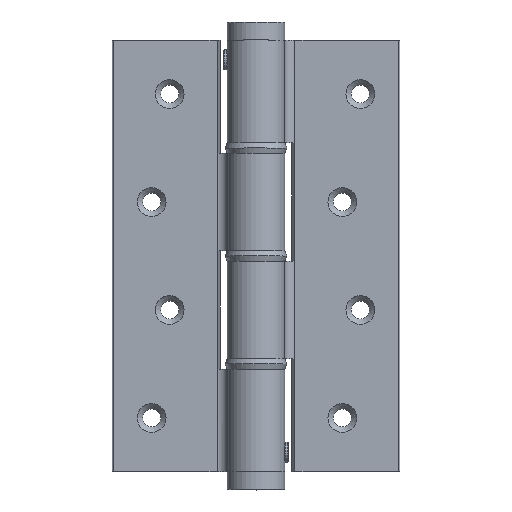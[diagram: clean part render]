
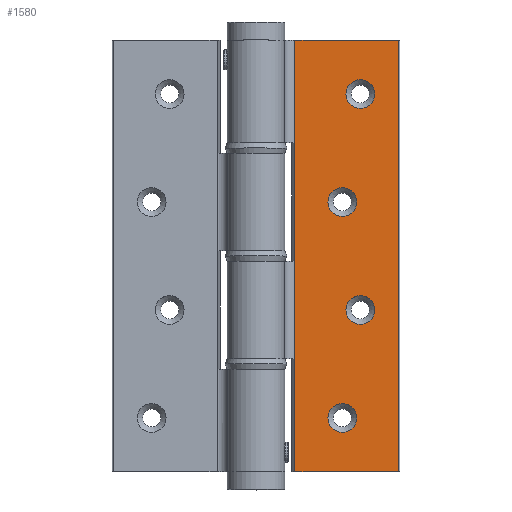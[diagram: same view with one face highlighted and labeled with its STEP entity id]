
A CAD part, top view. The second image highlights one B-rep face of the part: STEP entity #1580.
In plain terms, the highlighted planar face has unit normal (0, 0, 1).
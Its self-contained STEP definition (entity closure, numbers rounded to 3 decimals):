
#108=PLANE('',#1737);
#151=CIRCLE('',#1738,4.);
#152=CIRCLE('',#1739,4.);
#153=CIRCLE('',#1740,4.);
#154=CIRCLE('',#1741,4.);
#228=LINE('',#2486,#310);
#233=LINE('',#2507,#315);
#234=LINE('',#2510,#316);
#235=LINE('',#2511,#317);
#310=VECTOR('',#1951,1000.);
#315=VECTOR('',#1968,1000.);
#316=VECTOR('',#1969,1000.);
#317=VECTOR('',#1970,1000.);
#404=ORIENTED_EDGE('',*,*,#824,.T.);
#405=ORIENTED_EDGE('',*,*,#825,.T.);
#406=ORIENTED_EDGE('',*,*,#814,.F.);
#407=ORIENTED_EDGE('',*,*,#826,.F.);
#408=ORIENTED_EDGE('',*,*,#827,.T.);
#409=ORIENTED_EDGE('',*,*,#828,.T.);
#410=ORIENTED_EDGE('',*,*,#829,.T.);
#411=ORIENTED_EDGE('',*,*,#830,.T.);
#814=EDGE_CURVE('',#1024,#1025,#228,.T.);
#824=EDGE_CURVE('',#1034,#1035,#233,.T.);
#825=EDGE_CURVE('',#1035,#1025,#234,.T.);
#826=EDGE_CURVE('',#1034,#1024,#235,.T.);
#827=EDGE_CURVE('',#1036,#1036,#151,.T.);
#828=EDGE_CURVE('',#1037,#1037,#152,.T.);
#829=EDGE_CURVE('',#1038,#1038,#153,.T.);
#830=EDGE_CURVE('',#1039,#1039,#154,.T.);
#1024=VERTEX_POINT('',#2487);
#1025=VERTEX_POINT('',#2488);
#1034=VERTEX_POINT('',#2508);
#1035=VERTEX_POINT('',#2509);
#1036=VERTEX_POINT('',#2513);
#1037=VERTEX_POINT('',#2515);
#1038=VERTEX_POINT('',#2517);
#1039=VERTEX_POINT('',#2519);
#1196=EDGE_LOOP('',(#404,#405,#406,#407));
#1197=EDGE_LOOP('',(#408));
#1198=EDGE_LOOP('',(#409));
#1199=EDGE_LOOP('',(#410));
#1200=EDGE_LOOP('',(#411));
#1365=FACE_BOUND('',#1196,.T.);
#1366=FACE_BOUND('',#1197,.T.);
#1367=FACE_BOUND('',#1198,.T.);
#1368=FACE_BOUND('',#1199,.T.);
#1369=FACE_BOUND('',#1200,.T.);
#1580=ADVANCED_FACE('',(#1365,#1366,#1367,#1368,#1369),#108,.T.);
#1737=AXIS2_PLACEMENT_3D('',#2506,#1966,#1967);
#1738=AXIS2_PLACEMENT_3D('',#2512,#1971,#1972);
#1739=AXIS2_PLACEMENT_3D('',#2514,#1973,#1974);
#1740=AXIS2_PLACEMENT_3D('',#2516,#1975,#1976);
#1741=AXIS2_PLACEMENT_3D('',#2518,#1977,#1978);
#1951=DIRECTION('',(0.,1.,0.));
#1966=DIRECTION('',(0.,0.,1.));
#1967=DIRECTION('',(1.,0.,0.));
#1968=DIRECTION('',(0.,1.,0.));
#1969=DIRECTION('',(-1.,0.,0.));
#1970=DIRECTION('',(-1.,0.,0.));
#1971=DIRECTION('',(0.,0.,-1.));
#1972=DIRECTION('',(1.,0.,0.));
#1973=DIRECTION('',(0.,0.,-1.));
#1974=DIRECTION('',(1.,0.,0.));
#1975=DIRECTION('',(0.,0.,-1.));
#1976=DIRECTION('',(1.,0.,0.));
#1977=DIRECTION('',(0.,0.,-1.));
#1978=DIRECTION('',(1.,0.,0.));
#2486=CARTESIAN_POINT('',(10.817,0.,-1.));
#2487=CARTESIAN_POINT('',(10.817,0.,-1.));
#2488=CARTESIAN_POINT('',(10.817,120.,-1.));
#2506=CARTESIAN_POINT('',(39.7,0.,-1.));
#2507=CARTESIAN_POINT('',(39.7,0.,-1.));
#2508=CARTESIAN_POINT('',(39.7,0.,-1.));
#2509=CARTESIAN_POINT('',(39.7,120.,-1.));
#2510=CARTESIAN_POINT('',(39.7,120.,-1.));
#2511=CARTESIAN_POINT('',(39.7,0.,-1.));
#2512=CARTESIAN_POINT('',(29.,105.,-1.));
#2513=CARTESIAN_POINT('',(33.,105.,-1.));
#2514=CARTESIAN_POINT('',(24.,75.,-1.));
#2515=CARTESIAN_POINT('',(28.,75.,-1.));
#2516=CARTESIAN_POINT('',(29.,45.,-1.));
#2517=CARTESIAN_POINT('',(33.,45.,-1.));
#2518=CARTESIAN_POINT('',(24.,15.,-1.));
#2519=CARTESIAN_POINT('',(28.,15.,-1.));
